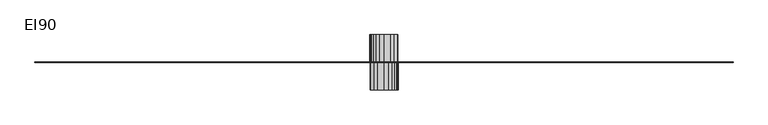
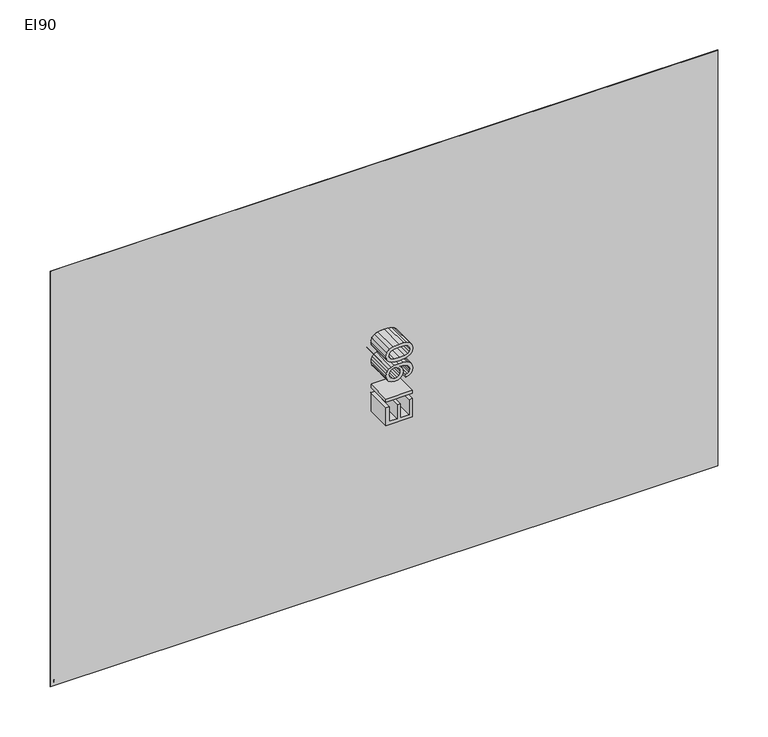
"""IFC4 building model written with IfcOpenShell, lengths in millimetres: proxy geometry, Fire_FireCompartmentationEI : EI90."""

from ifc_helpers import new_model, si_unit, point, frame, frame_2d, origin, origin_with_axes, place, context, project, spatial, polyline, circle_curve, trimmed, segment, composite_curve, outline, extrude, source, transform, mapped, element, save


def ei90_eace62c9(model_context):
    return source(origin(), model_context, "Body", "SweptSolid", [
        extrude(outline(polyline([(3800.0, -0.5), (0.0, -0.5), (0.0, 0.5), (3800.0, 0.5), (3800.0, -0.5)])), origin_with_axes(), (0.0, 0.0, 1.0), 2500.0),
        extrude(outline(composite_curve([segment(trimmed(circle_curve(frame_2d((28.9488523, 20.9372462)), 4.3000253), [point((27.7936078, 25.0791815))], [point((29.724042, 25.1668205))], False, "CARTESIAN"), True, "CONTINUOUS"), segment(trimmed(circle_curve(frame_2d((29.6833004, 19.2917407)), 5.875221), [point((29.724042, 25.1668205))], [point((32.6283278, 24.3755421))], False, "CARTESIAN"), True, "CONTINUOUS"), segment(trimmed(circle_curve(frame_2d((32.8576867, 20.8662932)), 3.5167361), [point((32.6283278, 24.3755421))], [point((30.6249304, 23.5833197))], True, "CARTESIAN"), True, "CONTINUOUS"), segment(trimmed(circle_curve(frame_2d((10.876956, 53.8348059)), 36.1266511), [point((30.6249304, 23.5833197))], [point((25.8949704, 20.9776277))], False, "CARTESIAN"), True, "CONTINUOUS"), segment(trimmed(circle_curve(frame_2d((21.9041848, 33.757735)), 13.3887083), [point((25.8949704, 20.9776277))], [point((22.6832699, 20.3917132))], False, "CARTESIAN"), True, "CONTINUOUS"), segment(trimmed(circle_curve(frame_2d((20.9508608, 39.8789486)), 19.5640891), [point((22.6832699, 20.3917132))], [point((20.0109811, 20.3374489))], False, "CARTESIAN"), True, "CONTINUOUS"), segment(trimmed(circle_curve(frame_2d((18.2722891, 30.1747881)), 9.9898094), [point((20.0109811, 20.3374489))], [point((25.2489423, 23.0247809))], True, "CARTESIAN"), True, "CONTINUOUS"), segment(trimmed(circle_curve(frame_2d((30.9774835, 18.5323372)), 7.2799887), [point((25.2489423, 23.0247809))], [point((27.7936078, 25.0791815))], False, "CARTESIAN"), True, "CONTINUOUS")], self_intersect=False)), frame((0.0, -0.6, 0.0), z_axis=(0.0, 1.0, 0.0), x_axis=(0.0, 0.0, 1.0)), (0.0, 0.0, 1.0), 1.2),
        extrude(outline(composite_curve([segment(trimmed(circle_curve(frame_2d((34.8553456, 17.4656787)), 4.3823741), [point((35.4675373, 21.8050824))], [point((32.7666638, 21.3182897))], True, "CARTESIAN"), True, "CONTINUOUS"), segment(trimmed(circle_curve(frame_2d((31.0348418, 25.2412811)), 4.2882478), [point((32.7666638, 21.3182897))], [point((31.0556823, 20.9530839))], False, "CARTESIAN"), True, "CONTINUOUS"), segment(trimmed(circle_curve(frame_2d((30.8661112, 26.3534755)), 5.4037178), [point((31.0556823, 20.9530839))], [point((28.4262544, 21.5319337))], False, "CARTESIAN"), True, "CONTINUOUS"), segment(trimmed(circle_curve(frame_2d((28.9867579, 26.8058524)), 5.3036197), [point((28.4262544, 21.5319337))], [point((30.6443727, 21.7679267))], True, "CARTESIAN"), True, "CONTINUOUS"), segment(trimmed(circle_curve(frame_2d((33.7648144, 18.2895153)), 4.6729544), [point((30.6443727, 21.7679267))], [point((32.5632515, 22.8053485))], False, "CARTESIAN"), True, "CONTINUOUS"), segment(trimmed(circle_curve(frame_2d((33.1708117, 19.8529583)), 3.0142556), [point((32.5632515, 22.8053485))], [point((35.4675373, 21.8050824))], False, "CARTESIAN"), True, "CONTINUOUS")], self_intersect=False)), frame((0.0, -0.6, 0.0), z_axis=(0.0, 1.0, 0.0), x_axis=(0.0, 0.0, 1.0)), (0.0, 0.0, 1.0), 1.2),
        extrude(outline(composite_curve([segment(trimmed(circle_curve(frame_2d((26.35828, 17.8501973)), 2.1465167), [point((27.6612009, 19.5560492))], [point((26.6135063, 19.9814864))], True, "CARTESIAN"), True, "CONTINUOUS"), segment(trimmed(circle_curve(frame_2d((25.771558, 13.6747037)), 6.3627341), [point((26.6135063, 19.9814864))], [point((25.1811141, 20.0099828))], True, "CARTESIAN"), True, "CONTINUOUS"), segment(trimmed(circle_curve(frame_2d((27.6708438, 15.0485986)), 5.5510437), [point((25.1811141, 20.0099828))], [point((27.8117089, 20.5978547))], False, "CARTESIAN"), True, "CONTINUOUS"), segment(trimmed(circle_curve(frame_2d((27.9681735, 17.2267436)), 3.3747401), [point((27.8117089, 20.5978547))], [point((29.507487, 20.2299728))], False, "CARTESIAN"), True, "CONTINUOUS"), segment(trimmed(circle_curve(frame_2d((31.5381431, 23.6896238)), 4.0115769), [point((29.507487, 20.2299728))], [point((32.2223971, 19.7368341))], True, "CARTESIAN"), True, "CONTINUOUS"), segment(trimmed(circle_curve(frame_2d((29.9256715, 21.6889582)), 3.0142556), [point((32.2223971, 19.7368341))], [point((29.3181113, 18.736568))], False, "CARTESIAN"), True, "CONTINUOUS"), segment(trimmed(circle_curve(frame_2d((30.5170043, 23.2454076)), 4.6655095), [point((29.3181113, 18.736568))], [point((27.6612009, 19.5560492))], False, "CARTESIAN"), True, "CONTINUOUS")], self_intersect=False)), frame((0.0, -0.6, 0.0), z_axis=(0.0, 1.0, 0.0), x_axis=(0.0, 0.0, 1.0)), (0.0, 0.0, 1.0), 1.2),
        extrude(outline(composite_curve([segment(trimmed(circle_curve(frame_2d((32.8467056, 19.4711557)), 3.5167361), [point((30.6139493, 16.7541292))], [point((32.6173467, 15.9619068))], True, "CARTESIAN"), True, "CONTINUOUS"), segment(trimmed(circle_curve(frame_2d((29.6723193, 21.0457082)), 5.875221), [point((32.6173467, 15.9619068))], [point((29.7130609, 15.1706284))], False, "CARTESIAN"), True, "CONTINUOUS"), segment(trimmed(circle_curve(frame_2d((28.9378712, 19.4002026)), 4.3000253), [point((29.7130609, 15.1706284))], [point((27.7826267, 15.2582674))], False, "CARTESIAN"), True, "CONTINUOUS"), segment(trimmed(circle_curve(frame_2d((30.9665024, 21.8051117)), 7.2799887), [point((27.7826267, 15.2582674))], [point((25.2379612, 17.312668))], False, "CARTESIAN"), True, "CONTINUOUS"), segment(trimmed(circle_curve(frame_2d((18.261308, 10.1626608)), 9.9898094), [point((25.2379612, 17.312668))], [point((20.0, 20.0))], True, "CARTESIAN"), True, "CONTINUOUS"), segment(trimmed(circle_curve(frame_2d((20.9398797, 0.4585003)), 19.5640891), [point((20.0, 20.0))], [point((22.6722888, 19.9457357))], False, "CARTESIAN"), True, "CONTINUOUS"), segment(trimmed(circle_curve(frame_2d((21.8932037, 6.5797139)), 13.3887083), [point((22.6722888, 19.9457357))], [point((25.8839893, 19.3598212))], False, "CARTESIAN"), True, "CONTINUOUS"), segment(trimmed(circle_curve(frame_2d((10.8659749, -13.497357)), 36.1266511), [point((25.8839893, 19.3598212))], [point((30.6139493, 16.7541292))], False, "CARTESIAN"), True, "CONTINUOUS")], self_intersect=False)), frame((0.0, -0.6, 0.0), z_axis=(0.0, 1.0, 0.0), x_axis=(0.0, 0.0, 1.0)), (0.0, 0.0, 1.0), 1.2),
        extrude(outline(polyline([(1022.7960798, 1825.0), (1022.7960798, 1975.6844652), (1131.1005392, 1975.6844652), (1131.1005392, 1956.8489071), (1041.6316379, 1956.8489071), (1041.6316379, 1912.1144565), (1126.3916496, 1912.1144565), (1126.3916496, 1893.2788983), (1041.6316379, 1893.2788983), (1041.6316379, 1843.8355582), (1133.4549839, 1843.8355582), (1133.4549839, 1825.0), (1022.7960798, 1825.0)])), frame((0.0, 0.0, 0.0), z_axis=(0.0, 1.0, 0.0), x_axis=(0.0, 0.0, 1.0)), (0.0, 0.0, 1.0), 150.0),
        extrude(outline(polyline([(1825.0, 150.0), (1975.6844652, 150.0), (1975.6844652, 0.0), (1825.0, 0.0), (1825.0, 150.0)])), frame((0.0, 0.0, 1164.0627659), z_axis=(0.0, 0.0, 1.0), x_axis=(1.0, 0.0, 0.0)), (0.0, 0.0, 1.0), 18.8355582),
        extrude(outline(polyline([(1274.7216701, 1862.6711163), (1293.5572282, 1865.0255611), (1296.7761957, 1854.3339906), (1302.0185141, 1847.0545256), (1309.1554248, 1842.8744664), (1318.0581691, 1841.4811134), (1333.3068778, 1845.0679628), (1343.6443619, 1854.6512888), (1349.8063853, 1871.0220376), (1352.5287121, 1892.8742281), (1352.4183475, 1896.5530481), (1337.3535798, 1882.2792266), (1316.6970057, 1876.7977849), (1299.5215151, 1880.1455111), (1285.224701, 1890.1886895), (1275.5815942, 1905.7041127), (1272.3672253, 1925.4685729), (1275.7379441, 1945.8860236), (1285.8501004, 1961.8888904), (1301.0390283, 1972.2355715), (1319.6400617, 1975.6844652), (1333.6885554, 1973.7162966), (1346.4770532, 1967.8117905), (1357.1732222, 1958.2652528), (1364.9447294, 1945.3709888), (1369.6766116, 1927.5471062), (1371.2539056, 1903.2117122), (1369.6812101, 1877.4093887), (1364.9631235, 1857.4655861), (1357.1410326, 1842.4789933), (1346.256324, 1831.5482995), (1332.7780474, 1824.8712413), (1317.1752523, 1822.6455552), (1301.071218, 1825.271313), (1288.2229393, 1833.1485862), (1279.2374216, 1845.7807342), (1274.7216701, 1862.6711163)]), holes=[polyline([(1352.4183475, 1925.9100313), (1350.3857994, 1938.6755365), (1344.2881554, 1948.4979858), (1334.824391, 1954.7611767), (1322.6934822, 1956.8489071), (1310.111918, 1954.6002284), (1300.0319513, 1947.8541923), (1293.4100754, 1937.5305038), (1291.2027835, 1924.5488679), (1293.2905138, 1912.9100013), (1299.5537048, 1903.6715647), (1309.3853511, 1897.6428985), (1322.1784475, 1895.6333431), (1334.2127872, 1897.6428985), (1343.9018793, 1903.6715647), (1350.2892304, 1913.2502921), (1352.4183475, 1925.9100313)])]), frame((0.0, 0.0, 0.0), z_axis=(0.0, 1.0, 0.0), x_axis=(0.0, 0.0, 1.0)), (0.0, 0.0, 1.0), 150.0),
        extrude(outline(polyline([(1387.735019, 1899.128222), (1389.119175, 1923.2474853), (1393.271643, 1942.4831152), (1400.1510363, 1957.1294171), (1409.7159682, 1967.4806967), (1422.0354165, 1973.6335231), (1437.1783591, 1975.6844652), (1459.1777025, 1970.8284229), (1474.3712289, 1956.830513), (1483.2003967, 1934.5368641), (1486.6216993, 1899.128222), (1485.2513389, 1875.1469145), (1481.1402576, 1855.9572699), (1474.302251, 1841.2971724), (1464.7511147, 1830.904506), (1452.4040752, 1824.7102929), (1437.1783591, 1822.6455552), (1417.607037, 1826.2324047), (1402.7446044, 1836.992953), (1391.4874153, 1862.4779783), (1387.735019, 1899.128222)]), holes=[polyline([(1406.5705771, 1899.1650102), (1408.7778691, 1869.536714), (1415.399745, 1852.3888145), (1425.2589825, 1844.2080387), (1437.1783591, 1841.4811134), (1449.0977358, 1844.2172357), (1458.9569733, 1852.4256027), (1465.5788492, 1869.5826993), (1467.7861411, 1899.1650102), (1465.6524256, 1928.1265203), (1459.2512789, 1945.407777), (1449.4104355, 1953.9886246), (1436.9576299, 1956.8489071), (1425.167012, 1954.3289154), (1415.6940506, 1946.7689404), (1408.8514455, 1928.4116288), (1406.5705771, 1899.1650102)])]), frame((0.0, 0.0, 0.0), z_axis=(0.0, 1.0, 0.0), x_axis=(0.0, 0.0, 1.0)), (0.0, 0.0, 1.0), 150.0),
        extrude(outline(polyline([(1022.7960798, 1975.0), (1133.4549839, 1975.0), (1133.4549839, 1956.1644418), (1041.6316379, 1956.1644418), (1041.6316379, 1906.7211017), (1126.3916496, 1906.7211017), (1126.3916496, 1887.8855435), (1041.6316379, 1887.8855435), (1041.6316379, 1843.1510929), (1131.1005392, 1843.1510929), (1131.1005392, 1824.3155348), (1022.7960798, 1824.3155348), (1022.7960798, 1975.0)])), frame((0.0, -150.0, 0.0), z_axis=(0.0, 1.0, 0.0), x_axis=(0.0, 0.0, 1.0)), (0.0, 0.0, 1.0), 150.0),
        extrude(outline(polyline([(1975.0, -150.0), (1824.3155348, -150.0), (1824.3155348, 0.0), (1975.0, 0.0), (1975.0, -150.0)])), frame((0.0, 0.0, 1164.0627659), z_axis=(0.0, 0.0, 1.0), x_axis=(1.0, 0.0, 0.0)), (0.0, 0.0, 1.0), 18.8355582),
        extrude(outline(polyline([(1274.7216701, 1937.3288837), (1279.2374216, 1954.2192658), (1288.2229393, 1966.8514138), (1301.071218, 1974.728687), (1317.1752523, 1977.3544448), (1332.7780474, 1975.1287587), (1346.256324, 1968.4517005), (1357.1410326, 1957.5210067), (1364.9631235, 1942.5344139), (1369.6812101, 1922.5906113), (1371.2539056, 1896.7882878), (1369.6766116, 1872.4528938), (1364.9447294, 1854.6290112), (1357.1732222, 1841.7347472), (1346.4770532, 1832.1882095), (1333.6885554, 1826.2837034), (1319.6400617, 1824.3155348), (1301.0390283, 1827.7644285), (1285.8501004, 1838.1111096), (1275.7379441, 1854.1139764), (1272.3672253, 1874.5314271), (1275.5815942, 1894.2958873), (1285.224701, 1909.8113105), (1299.5215151, 1919.8544889), (1316.6970057, 1923.2022151), (1337.3535798, 1917.7207734), (1352.4183475, 1903.4469519), (1352.5287121, 1907.1257719), (1349.8063853, 1928.9779624), (1343.6443619, 1945.3487112), (1333.3068778, 1954.9320372), (1318.0581691, 1958.5188866), (1309.1554248, 1957.1255336), (1302.0185141, 1952.9454744), (1296.7761957, 1945.6660094), (1293.5572282, 1934.9744389), (1274.7216701, 1937.3288837)]), holes=[polyline([(1352.4183475, 1874.0899687), (1350.2892304, 1886.7497079), (1343.9018793, 1896.3284353), (1334.2127872, 1902.3571015), (1322.1784475, 1904.3666569), (1309.3853511, 1902.3571015), (1299.5537048, 1896.3284353), (1293.2905138, 1887.0899987), (1291.2027835, 1875.4511321), (1293.4100754, 1862.4694962), (1300.0319513, 1852.1458077), (1310.111918, 1845.3997716), (1322.6934822, 1843.1510929), (1334.824391, 1845.2388233), (1344.2881554, 1851.5020142), (1350.3857994, 1861.3244635), (1352.4183475, 1874.0899687)])]), frame((0.0, -150.0, 0.0), z_axis=(0.0, 1.0, 0.0), x_axis=(0.0, 0.0, 1.0)), (0.0, 0.0, 1.0), 150.0),
        extrude(outline(polyline([(1387.735019, 1900.871778), (1391.4874153, 1937.5220217), (1402.7446044, 1963.007047), (1417.607037, 1973.7675953), (1437.1783591, 1977.3544448), (1452.4040752, 1975.2897071), (1464.7511147, 1969.095494), (1474.302251, 1958.7028276), (1481.1402576, 1944.0427301), (1485.2513389, 1924.8530855), (1486.6216993, 1900.871778), (1483.2003967, 1865.4631359), (1474.3712289, 1843.169487), (1459.1777025, 1829.1715771), (1437.1783591, 1824.3155348), (1422.0354165, 1826.3664769), (1409.7159682, 1832.5193033), (1400.1510363, 1842.8705829), (1393.271643, 1857.5168848), (1389.119175, 1876.7525147), (1387.735019, 1900.871778)]), holes=[polyline([(1406.5705771, 1900.8349898), (1408.8514455, 1871.5883712), (1415.6940506, 1853.2310596), (1425.167012, 1845.6710846), (1436.9576299, 1843.1510929), (1449.4104355, 1846.0113754), (1459.2512789, 1854.592223), (1465.6524256, 1871.8734797), (1467.7861411, 1900.8349898), (1465.5788492, 1930.4173007), (1458.9569733, 1947.5743973), (1449.0977358, 1955.7827643), (1437.1783591, 1958.5188866), (1425.2589825, 1955.7919613), (1415.399745, 1947.6111855), (1408.7778691, 1930.463286), (1406.5705771, 1900.8349898)])]), frame((0.0, -150.0, 0.0), z_axis=(0.0, 1.0, 0.0), x_axis=(0.0, 0.0, 1.0)), (0.0, 0.0, 1.0), 150.0),
    ])


if __name__ == "__main__":
    model = new_model("IFC4")
    model_context = context("Model", 3, world=origin())
    ifc_project = project(units=[si_unit("LENGTHUNIT", "METRE", prefix="MILLI")], contexts=[model_context])
    site = spatial("IfcSite", under=ifc_project)
    building = spatial("IfcBuilding", under=site)
    placement = place(None, origin())
    ei90_shape = ei90_eace62c9(model_context)
    element("IfcBuildingElementProxy", 1, Name="Fire_FireCompartmentationEI : EI90", ObjectType="Fire_FireCompartmentationEI : EI90", at=placement, inside=building, context=model_context, shape_type="MappedRepresentation", body=[
        mapped(ei90_shape, transform((0.0, 0.0, 0.0), x_axis=(1.0, 0.0, 0.0), y_axis=(0.0, 1.0, 0.0), z_axis=(0.0, 0.0, 1.0))),
    ])
    save(model, "model.ifc")
